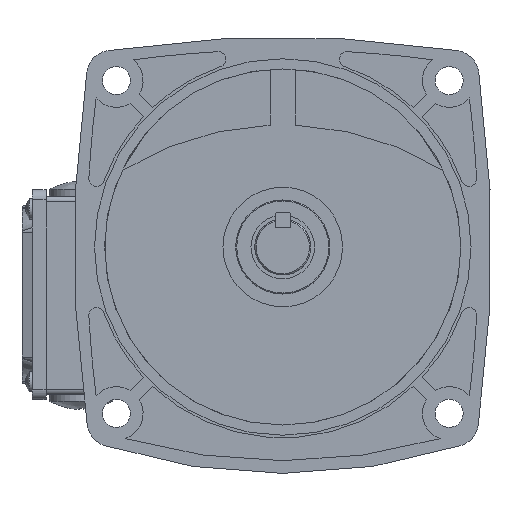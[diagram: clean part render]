
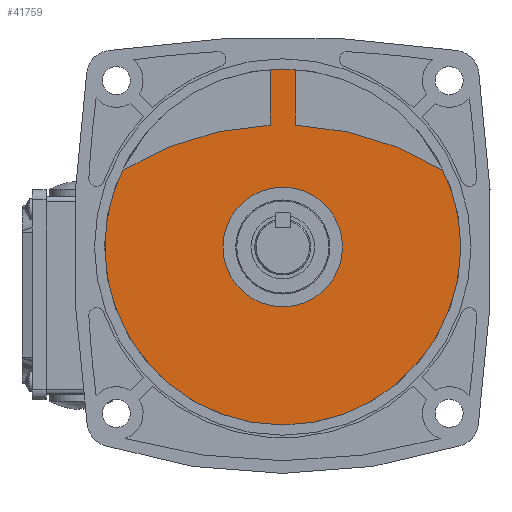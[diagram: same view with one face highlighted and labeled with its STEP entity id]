
A CAD part, left-side view. The second image highlights one B-rep face of the part: STEP entity #41759.
In plain terms, the highlighted planar face has unit normal (-1, 0, 0).
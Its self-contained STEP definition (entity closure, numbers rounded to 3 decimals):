
#855=FACE_BOUND('',#6532,.T.);
#2942=PLANE('',#44219);
#4184=FACE_OUTER_BOUND('',#6531,.T.);
#6531=EDGE_LOOP('',(#28223,#28224,#28225,#28226,#28227,#28228,#28229));
#6532=EDGE_LOOP('',(#28230));
#9017=CIRCLE('',#44091,23.5);
#9021=CIRCLE('',#44098,70.);
#9023=CIRCLE('',#44100,70.);
#9024=CIRCLE('',#44101,70.);
#9084=CIRCLE('',#44203,120.);
#9098=CIRCLE('',#44220,120.);
#10658=LINE('',#58691,#13781);
#10663=LINE('',#58729,#13786);
#13781=VECTOR('',#48157,10.);
#13786=VECTOR('',#48194,10.);
#16870=VERTEX_POINT('',#58444);
#16874=VERTEX_POINT('',#58457);
#16875=VERTEX_POINT('',#58458);
#16878=VERTEX_POINT('',#58464);
#16879=VERTEX_POINT('',#58466);
#16880=VERTEX_POINT('',#58469);
#16949=VERTEX_POINT('',#58687);
#16966=VERTEX_POINT('',#58727);
#21281=EDGE_CURVE('',#16870,#16870,#9017,.T.);
#21286=EDGE_CURVE('',#16874,#16875,#9021,.T.);
#21290=EDGE_CURVE('',#16879,#16878,#9023,.T.);
#21292=EDGE_CURVE('',#16880,#16879,#9024,.T.);
#21399=EDGE_CURVE('',#16949,#16874,#9084,.T.);
#21401=EDGE_CURVE('',#16878,#16949,#10658,.T.);
#21419=EDGE_CURVE('',#16875,#16966,#9098,.T.);
#21420=EDGE_CURVE('',#16966,#16880,#10663,.T.);
#28223=ORIENTED_EDGE('',*,*,#21419,.T.);
#28224=ORIENTED_EDGE('',*,*,#21420,.T.);
#28225=ORIENTED_EDGE('',*,*,#21292,.T.);
#28226=ORIENTED_EDGE('',*,*,#21290,.T.);
#28227=ORIENTED_EDGE('',*,*,#21401,.T.);
#28228=ORIENTED_EDGE('',*,*,#21399,.T.);
#28229=ORIENTED_EDGE('',*,*,#21286,.T.);
#28230=ORIENTED_EDGE('',*,*,#21281,.T.);
#41759=ADVANCED_FACE('',(#4184,#855),#2942,.F.);
#44091=AXIS2_PLACEMENT_3D('',#58446,#47877,#47878);
#44098=AXIS2_PLACEMENT_3D('',#58459,#47892,#47893);
#44100=AXIS2_PLACEMENT_3D('',#58467,#47898,#47899);
#44101=AXIS2_PLACEMENT_3D('',#58470,#47901,#47902);
#44203=AXIS2_PLACEMENT_3D('',#58688,#48152,#48153);
#44219=AXIS2_PLACEMENT_3D('',#58726,#48190,#48191);
#44220=AXIS2_PLACEMENT_3D('',#58728,#48192,#48193);
#47877=DIRECTION('center_axis',(1.,0.,0.));
#47878=DIRECTION('ref_axis',(0.,0.,-1.));
#47892=DIRECTION('center_axis',(-1.,0.,0.));
#47893=DIRECTION('ref_axis',(0.,0.,-1.));
#47898=DIRECTION('center_axis',(-1.,0.,0.));
#47899=DIRECTION('ref_axis',(0.,0.,-1.));
#47901=DIRECTION('center_axis',(-1.,0.,0.));
#47902=DIRECTION('ref_axis',(0.,0.,-1.));
#48152=DIRECTION('center_axis',(-1.,0.,0.));
#48153=DIRECTION('ref_axis',(0.,-0.042,-0.999));
#48157=DIRECTION('',(0.,0.,-1.));
#48190=DIRECTION('center_axis',(1.,0.,0.));
#48191=DIRECTION('ref_axis',(0.,0.,-1.));
#48192=DIRECTION('center_axis',(-1.,0.,0.));
#48193=DIRECTION('ref_axis',(0.,0.042,-0.999));
#48194=DIRECTION('',(0.,0.,1.));
#58444=CARTESIAN_POINT('',(-31.323,4.231,26.75));
#58446=CARTESIAN_POINT('Origin',(-31.323,4.231,3.25));
#58457=CARTESIAN_POINT('',(-31.323,67.49,33.222));
#58458=CARTESIAN_POINT('',(-31.323,-59.028,33.222));
#58459=CARTESIAN_POINT('Origin',(-31.323,4.231,3.25));
#58464=CARTESIAN_POINT('',(-31.323,9.231,73.071));
#58466=CARTESIAN_POINT('',(-31.323,4.231,73.25));
#58467=CARTESIAN_POINT('Origin',(-31.323,4.231,3.25));
#58469=CARTESIAN_POINT('',(-31.323,-0.769,73.071));
#58470=CARTESIAN_POINT('Origin',(-31.323,4.231,3.25));
#58687=CARTESIAN_POINT('',(-31.323,9.231,51.146));
#58688=CARTESIAN_POINT('Origin',(-31.323,4.231,-68.75));
#58691=CARTESIAN_POINT('',(-31.323,9.231,37.464));
#58726=CARTESIAN_POINT('Origin',(-31.323,4.231,1.857));
#58727=CARTESIAN_POINT('',(-31.323,-0.769,51.146));
#58728=CARTESIAN_POINT('Origin',(-31.323,4.231,-68.75));
#58729=CARTESIAN_POINT('',(-31.323,-0.769,37.464));
